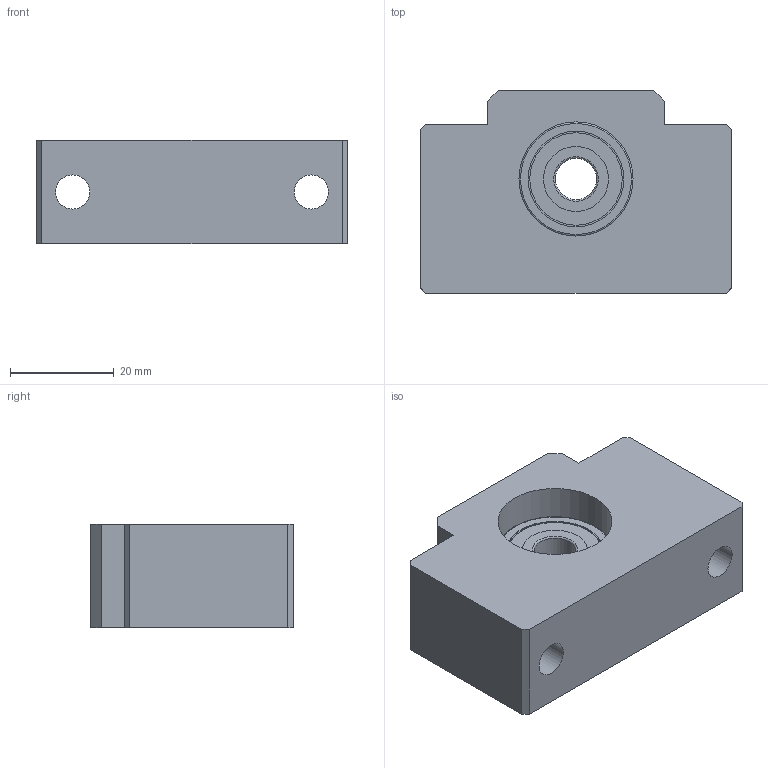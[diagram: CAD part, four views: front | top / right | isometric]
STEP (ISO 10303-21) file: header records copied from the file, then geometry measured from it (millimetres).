
FILE_DESCRIPTION(/* description */ ('STEP AP214'),/* implementation_level */ '2;1');
FILE_NAME(/* name */ 'BF10',/* time_stamp */ '2026-09-17T13:11:42+02:00',/* author */ ('License CC BY-ND 4.0'),/* organization */ ('CADENAS'),/* preprocessor_version */ 'ST-DEVELOPER v20',/* originating_system */ 'PARTsolutions',/* authorisation */ ' ');
FILE_SCHEMA (('AUTOMOTIVE_DESIGN {1 0 10303 214 3 1 1}'));
Length unit declared in the file: millimetre
Products named in the file (3): BF10; BF 10 Part1; BF 10 Part2
Assembly tree (2 placements, depth 2):
  BF10
    BF 10 Part1
    BF 10 Part2
Bounding box: 60 x 39 x 20 mm (x, y, z)
Volume: 35192.9 mm3; surface area: 11491 mm2
Topology: 2 solids, 2 shells, 43 faces, 90 edges, 59 vertices
Faces by surface type: plane 26, cylinder 13, torus 4
Full cylindrical faces by diameter (mm): 6.6 x2, 8 x1, 10.8 x2, 12.5 x2, 17.8 x2, 18.4 x2, 22 x2
Entity records: 1147 total; most frequent: DIRECTION 194, CARTESIAN_POINT 176, ORIENTED_EDGE 144, EDGE_LOOP 76, FACE_BOUND 76, AXIS2_PLACEMENT_3D 76, EDGE_CURVE 72, VERTEX_POINT 58
